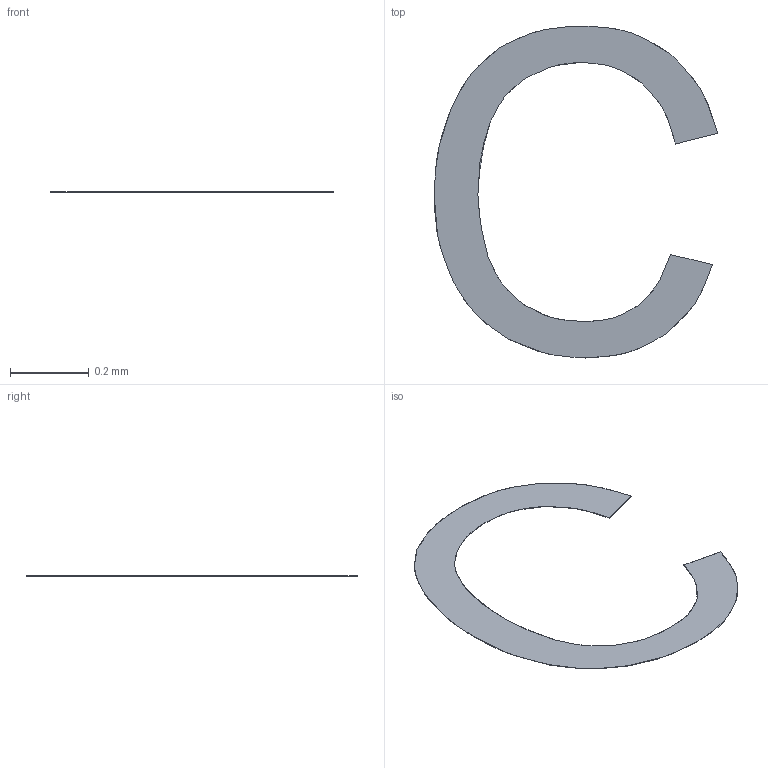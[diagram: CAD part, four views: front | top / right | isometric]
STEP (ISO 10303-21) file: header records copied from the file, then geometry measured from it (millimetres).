
FILE_DESCRIPTION(/* description */ ('STEP AP242 Edition 2','CAx-IF Rec.Pracs.---Representation and Presentation of Product Manufacturing Information (PMI)---4.0---2014-10-13','CAx-IF Rec.Pracs.---3D Tessellated Geometry---0.4---2014-09-14','2;1','CAx-IF Rec.Pracs.---User Defined Attributes---1.5---2016-08-15'),/* implementation_level */ '2;1');
FILE_NAME(/* name */ 'Drone Layout - Surface 356',/* time_stamp */ '2026-10-04T22:22:57Z',/* author */ (''),/* organization */ (''),/* preprocessor_version */ 'ST-DEVELOPER v20',/* originating_system */ 'ONSHAPE BY PTC INC, 1.221',/* authorisation */ ' ');
FILE_SCHEMA (('AP242_MANAGED_MODEL_BASED_3D_ENGINEERING_MIM_LF { 1 0 10303 442 3 1 4 }'));
Length unit declared in the file: metre
Products named in the file (1): VL53L0X:1__Body18
Bounding box: 0.72 x 0.84 x 0 mm (x, y, z)
Volume: 0 mm3; surface area: 0.4 mm2
Topology: 1 solids, 1 shells, 24 faces, 66 edges, 44 vertices
Faces by surface type: bspline 20, plane 4
Entity records: 949 total; most frequent: CARTESIAN_POINT 461, ORIENTED_EDGE 132, EDGE_CURVE 66, VERTEX_POINT 44, B_SPLINE_CURVE_WITH_KNOTS 40, DIRECTION 36, LINE 26, VECTOR 26
